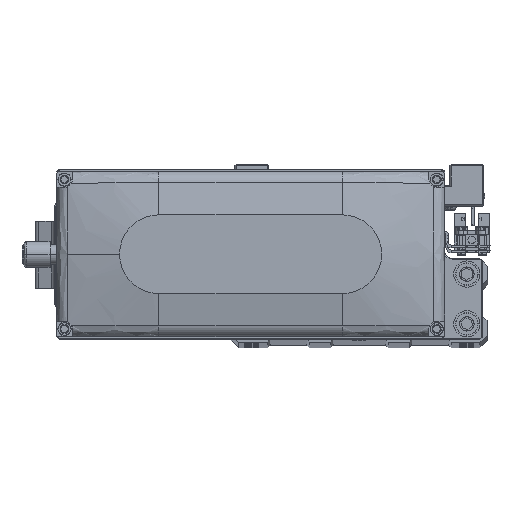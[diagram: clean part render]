
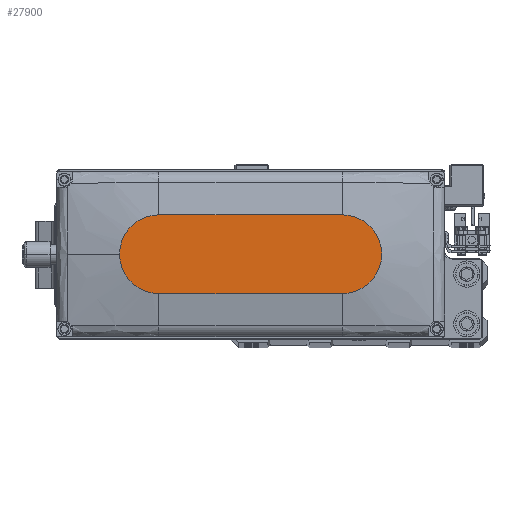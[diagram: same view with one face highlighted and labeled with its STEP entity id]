
A CAD part, top view. The second image highlights one B-rep face of the part: STEP entity #27900.
In plain terms, the highlighted planar face has unit normal (0, 0, 1).
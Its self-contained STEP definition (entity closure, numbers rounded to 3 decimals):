
#1856 = EDGE_CURVE ( 'NONE', #32538, #16566, #19069, .T. ) ;
#1893 = CARTESIAN_POINT ( 'NONE',  ( 35., 0., 35. ) ) ;
#1904 = CARTESIAN_POINT ( 'NONE',  ( 0., 0., 35. ) ) ;
#3599 = ORIENTED_EDGE ( 'NONE', *, *, #12444, .T. ) ;
#3640 = CARTESIAN_POINT ( 'NONE',  ( -35., 15., 35. ) ) ;
#3905 = VECTOR ( 'NONE', #8924, 1000. ) ;
#4374 = LINE ( 'NONE', #18396, #44941 ) ;
#4717 = CARTESIAN_POINT ( 'NONE',  ( 35., 15., 35. ) ) ;
#7312 = CARTESIAN_POINT ( 'NONE',  ( 35., -15., 35. ) ) ;
#8742 = DIRECTION ( 'NONE',  ( 0., 0., 1. ) ) ;
#8924 = DIRECTION ( 'NONE',  ( 1., 0., 0. ) ) ;
#9367 = CARTESIAN_POINT ( 'NONE',  ( -35., 0., 35. ) ) ;
#9445 = ORIENTED_EDGE ( 'NONE', *, *, #44958, .T. ) ;
#12444 = EDGE_CURVE ( 'NONE', #42801, #33799, #4374, .T. ) ;
#14167 = CIRCLE ( 'NONE', #39797, 15. ) ;
#15118 = ORIENTED_EDGE ( 'NONE', *, *, #27539, .T. ) ;
#15155 = CIRCLE ( 'NONE', #40784, 15. ) ;
#15925 = DIRECTION ( 'NONE',  ( 0., 0., 1. ) ) ;
#15934 = DIRECTION ( 'NONE',  ( 0., 0., 1. ) ) ;
#16566 = VERTEX_POINT ( 'NONE', #32692 ) ;
#18396 = CARTESIAN_POINT ( 'NONE',  ( -35., 15., 35. ) ) ;
#19069 = CIRCLE ( 'NONE', #44710, 15. ) ;
#19379 = FACE_OUTER_BOUND ( 'NONE', #23839, .T. ) ;
#22750 = DIRECTION ( 'NONE',  ( 1., 0., 0. ) ) ;
#23377 = DIRECTION ( 'NONE',  ( 0., 0., 1. ) ) ;
#23839 = EDGE_LOOP ( 'NONE', ( #3599, #9445, #15118, #41947, #43912 ) ) ;
#25442 = CARTESIAN_POINT ( 'NONE',  ( -35., -15., 35. ) ) ;
#26363 = LINE ( 'NONE', #40354, #3905 ) ;
#27539 = EDGE_CURVE ( 'NONE', #43601, #32538, #26363, .T. ) ;
#27900 = ADVANCED_FACE ( 'NONE', ( #19379 ), #33376, .T. ) ;
#29930 = DIRECTION ( 'NONE',  ( 1., 0., 0. ) ) ;
#29939 = DIRECTION ( 'NONE',  ( 1., 0., 0. ) ) ;
#32260 = EDGE_CURVE ( 'NONE', #16566, #42801, #15155, .T. ) ;
#32398 = DIRECTION ( 'NONE',  ( -1., 0., 0. ) ) ;
#32538 = VERTEX_POINT ( 'NONE', #7312 ) ;
#32692 = CARTESIAN_POINT ( 'NONE',  ( 50., 0., 35. ) ) ;
#33376 = PLANE ( 'NONE',  #34010 ) ;
#33799 = VERTEX_POINT ( 'NONE', #3640 ) ;
#34010 = AXIS2_PLACEMENT_3D ( 'NONE', #1904, #15934, #29939 ) ;
#37374 = DIRECTION ( 'NONE',  ( 1., 0., 0. ) ) ;
#39797 = AXIS2_PLACEMENT_3D ( 'NONE', #9367, #23377, #37374 ) ;
#40168 = CARTESIAN_POINT ( 'NONE',  ( 35., 0., 35. ) ) ;
#40354 = CARTESIAN_POINT ( 'NONE',  ( -35., -15., 35. ) ) ;
#40784 = AXIS2_PLACEMENT_3D ( 'NONE', #40168, #8742, #22750 ) ;
#41947 = ORIENTED_EDGE ( 'NONE', *, *, #1856, .T. ) ;
#42801 = VERTEX_POINT ( 'NONE', #4717 ) ;
#43601 = VERTEX_POINT ( 'NONE', #25442 ) ;
#43912 = ORIENTED_EDGE ( 'NONE', *, *, #32260, .T. ) ;
#44710 = AXIS2_PLACEMENT_3D ( 'NONE', #1893, #15925, #29930 ) ;
#44941 = VECTOR ( 'NONE', #32398, 1000. ) ;
#44958 = EDGE_CURVE ( 'NONE', #33799, #43601, #14167, .T. ) ;
